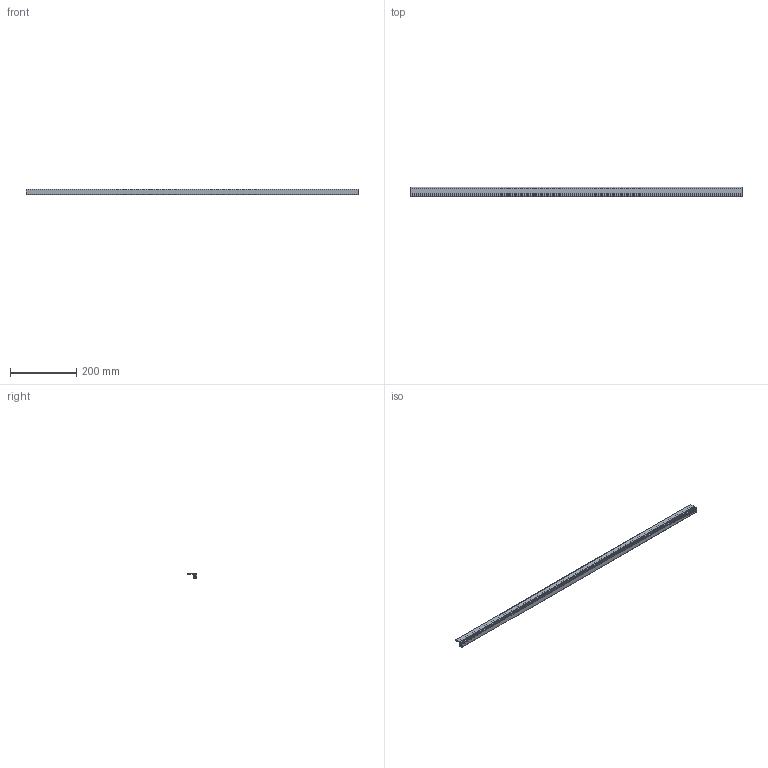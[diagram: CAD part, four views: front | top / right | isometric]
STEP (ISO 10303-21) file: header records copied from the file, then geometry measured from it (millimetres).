
FILE_DESCRIPTION(('no description'),'unknown implementation level');
FILE_NAME('3842993019_162804516.stp',' ',('Bosch Rexroth AG'),('CADClick - KiM GmbH - www.kimweb.de'),'unknown preprocess','ACIS','unknown authorization');
FILE_SCHEMA(('CONFIG_CONTROL_DESIGN'));
Length unit declared in the file: millimetre
Products named in the file (1): 1
Bounding box: 1000 x 27.4 x 16 mm (x, y, z)
Volume: 123109 mm3; surface area: 125067.5 mm2
Topology: 1 solids, 1 shells, 86 faces, 252 edges, 168 vertices
Faces by surface type: plane 75, cylinder 11
Entity records: 2862 total; most frequent: CARTESIAN_POINT 507, ORIENTED_EDGE 504, DIRECTION 448, EDGE_CURVE 252, LINE 230, VECTOR 230, VERTEX_POINT 168, AXIS2_PLACEMENT_3D 109
